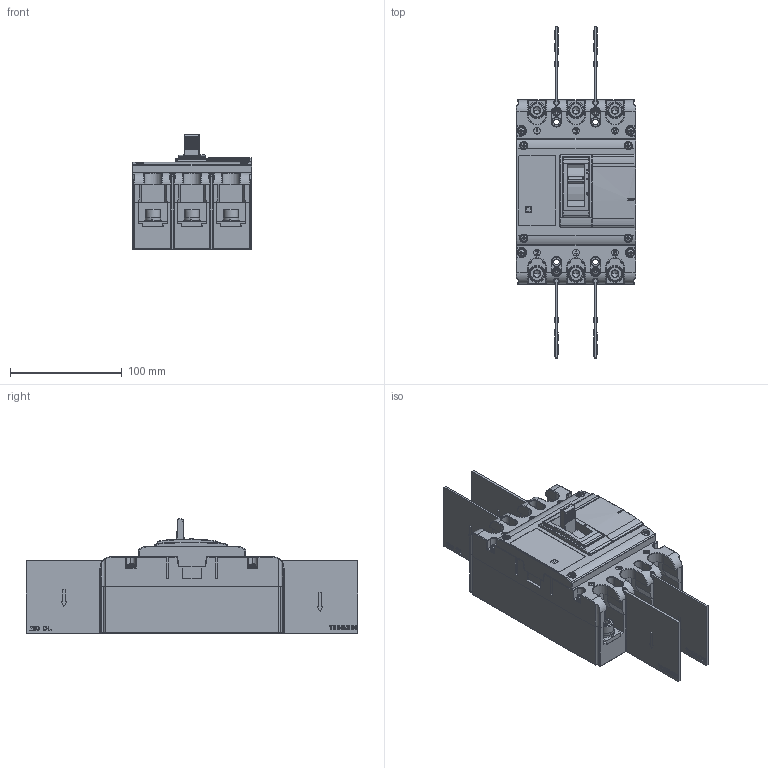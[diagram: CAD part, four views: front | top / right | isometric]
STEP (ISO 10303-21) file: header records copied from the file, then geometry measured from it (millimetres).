
FILE_DESCRIPTION (( 'STEP AP214' ), '1' );
FILE_NAME ('TGM1N-250-320-L-3P.STEP', '2025-12-18T09:22:00', ( '' ), ( '' ), 'SwSTEP 2.0', 'SolidWorks 2024', '' );
FILE_SCHEMA (( 'AUTOMOTIVE_DESIGN' ));
Length unit declared in the file: millimetre
Products named in the file (27): 5TZD_558_6126_ASM_1_ASM_1.stp; 8TZD_551_6010_1_1_2_1.stp; 5TZD_551_6004_ASM_1_1_ASM_1.stp; TGM1N-250-320-L-3P.stp; TGM1N-250-320-L-3P; 8TZD_585_6053_1_1_1.stp; 5TZD_599_6009_ASM_1_1_ASM_1.stp; 8TZD_742_6021_1_1_2_1.stp; 5TZD_558_6125_AF0_ASM_1_ASM_1.stp; 5TZD_558_6094_ASM_1_1_ASM_1.stp; GB_T9074_4-M3X30_1_1_2_3_4_1.stp; 5TZD_558_6125_AF1_ASM_1_ASM_1.stp; 5TZD_599_6010_ASM_1_1_ASM_1.stp; 5TZD_315_6024_ASM_1_1_ASM_1.stp; 8TZD_024_6061_1_1.stp; 8TZD_742_6022_1_1_2_1.stp; 2TZD_256_6016_ASM_1_ASM_1.stp; Q_TZJ0301_1-M8X20_1_1_2_3_4_1.stp; 8TZD_742_6107_1_1_2_1.stp; 5TZD_024_6044_ASM_1_ASM_1.stp; 8TZD_315_6048_1_1_2_1.stp; 8TZD_253_6014_1_1_2_3_4_1.stp; 8TZD_742_6030_1_1_1.stp; 8TZD_253_6013_1_1_2_3_4_1.stp; GB_T9074_4-M3X8_1_1_2_3_4_1.stp; 8TZD_315_6132_1_1_1.stp; 5TZD_558_6125_AF2_ASM_1_ASM_1.stp
Assembly tree (52 placements, depth 9):
  TGM1N-250-320-L-3P
    TGM1N-250-320-L-3P.stp
      2TZD_256_6016_ASM_1_ASM_1.stp
        5TZD_024_6044_ASM_1_ASM_1.stp
          8TZD_024_6061_1_1.stp
        5TZD_551_6004_ASM_1_1_ASM_1.stp  x3
          8TZD_551_6010_1_1_2_1.stp
        5TZD_558_6126_ASM_1_ASM_1.stp
          5TZD_558_6125_AF0_ASM_1_ASM_1.stp
            5TZD_558_6094_ASM_1_1_ASM_1.stp
              5TZD_599_6010_ASM_1_1_ASM_1.stp
                5TZD_599_6009_ASM_1_1_ASM_1.stp
                  8TZD_585_6053_1_1_1.stp
          5TZD_558_6125_AF1_ASM_1_ASM_1.stp
            5TZD_558_6094_ASM_1_1_ASM_1.stp
              5TZD_599_6010_ASM_1_1_ASM_1.stp
                5TZD_599_6009_ASM_1_1_ASM_1.stp
                  8TZD_585_6053_1_1_1.stp
          5TZD_558_6125_AF2_ASM_1_ASM_1.stp
            5TZD_558_6094_ASM_1_1_ASM_1.stp
              5TZD_599_6010_ASM_1_1_ASM_1.stp
                5TZD_599_6009_ASM_1_1_ASM_1.stp
                  8TZD_585_6053_1_1_1.stp
        5TZD_315_6024_ASM_1_1_ASM_1.stp
          8TZD_315_6132_1_1_1.stp
        Q_TZJ0301_1-M8X20_1_1_2_3_4_1.stp  x6
        8TZD_742_6030_1_1_1.stp
        8TZD_742_6021_1_1_2_1.stp  x3
        8TZD_742_6022_1_1_2_1.stp  x3
        8TZD_253_6014_1_1_2_3_4_1.stp
        8TZD_253_6013_1_1_2_3_4_1.stp
        8TZD_315_6048_1_1_2_1.stp
        GB_T9074_4-M3X30_1_1_2_3_4_1.stp  x8
        GB_T9074_4-M3X8_1_1_2_3_4_1.stp  x4
        8TZD_742_6107_1_1_2_1.stp  x4
Bounding box: 107 x 297.5 x 102.7 mm (x, y, z)
Volume: 1174443.7 mm3; surface area: 322275.7 mm2
Topology: 16 solids, 100 shells, 5399 faces, 14242 edges, 9107 vertices
Faces by surface type: plane 3670, cylinder 1260, torus 179, sphere 145, cone 117, bspline 28
Entity records: 123457 total; most frequent: CARTESIAN_POINT 30107, ORIENTED_EDGE 19448, DIRECTION 18882, EDGE_CURVE 9742, LINE 7274, VECTOR 7274, VERTEX_POINT 6258, AXIS2_PLACEMENT_3D 5804
